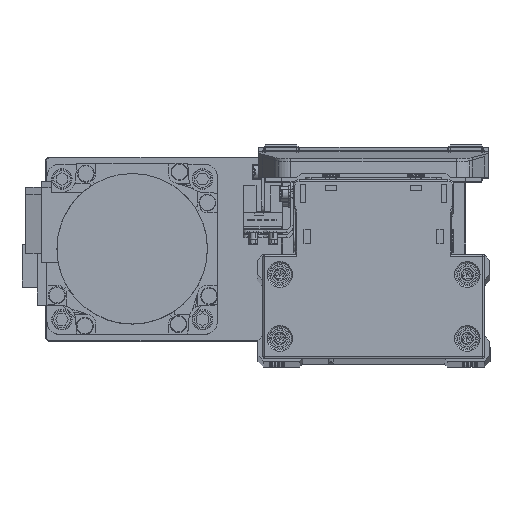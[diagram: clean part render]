
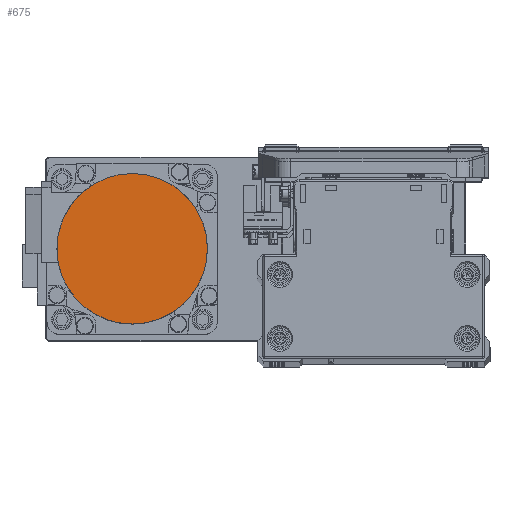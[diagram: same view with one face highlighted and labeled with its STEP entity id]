
A CAD part, top view. The second image highlights one B-rep face of the part: STEP entity #675.
In plain terms, the highlighted planar face has unit normal (0, 0, 1) as drawn and (0, 0, -1) by its records, which use the part's own axes.
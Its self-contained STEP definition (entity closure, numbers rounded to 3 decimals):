
#559 = CARTESIAN_POINT ( 'NONE',  ( 0., 0., -109.7 ) ) ;
#675 = ADVANCED_FACE ( 'NONE', ( #9308 ), #22135, .F. ) ;
#2932 = ORIENTED_EDGE ( 'NONE', *, *, #40956, .F. ) ;
#3098 = CARTESIAN_POINT ( 'NONE',  ( 0., 0., -109.7 ) ) ;
#6163 = DIRECTION ( 'NONE',  ( 0., 0., 1. ) ) ;
#7415 = AXIS2_PLACEMENT_3D ( 'NONE', #34965, #6163, #18997 ) ;
#8753 = VERTEX_POINT ( 'NONE', #40675 ) ;
#8995 = ORIENTED_EDGE ( 'NONE', *, *, #30265, .F. ) ;
#9308 = FACE_OUTER_BOUND ( 'NONE', #20356, .T. ) ;
#11074 = CIRCLE ( 'NONE', #34572, 26.5 ) ;
#13412 = DIRECTION ( 'NONE',  ( 0., 0., 1. ) ) ;
#15769 = VERTEX_POINT ( 'NONE', #41160 ) ;
#15946 = DIRECTION ( 'NONE',  ( 0., 0., 1. ) ) ;
#18997 = DIRECTION ( 'NONE',  ( 1., 0., 0. ) ) ;
#20356 = EDGE_LOOP ( 'NONE', ( #2932, #8995 ) ) ;
#22135 = PLANE ( 'NONE',  #7415 ) ;
#26245 = DIRECTION ( 'NONE',  ( -1., 0., 0. ) ) ;
#26665 = CIRCLE ( 'NONE', #32040, 26.5 ) ;
#28756 = DIRECTION ( 'NONE',  ( 1., 0., 0. ) ) ;
#30265 = EDGE_CURVE ( 'NONE', #15769, #8753, #26665, .T. ) ;
#32040 = AXIS2_PLACEMENT_3D ( 'NONE', #3098, #15946, #28756 ) ;
#34572 = AXIS2_PLACEMENT_3D ( 'NONE', #559, #13412, #26245 ) ;
#34965 = CARTESIAN_POINT ( 'NONE',  ( 0., 0., -109.7 ) ) ;
#40675 = CARTESIAN_POINT ( 'NONE',  ( -26.5, 0., -109.7 ) ) ;
#40956 = EDGE_CURVE ( 'NONE', #8753, #15769, #11074, .T. ) ;
#41160 = CARTESIAN_POINT ( 'NONE',  ( 26.5, 0., -109.7 ) ) ;
